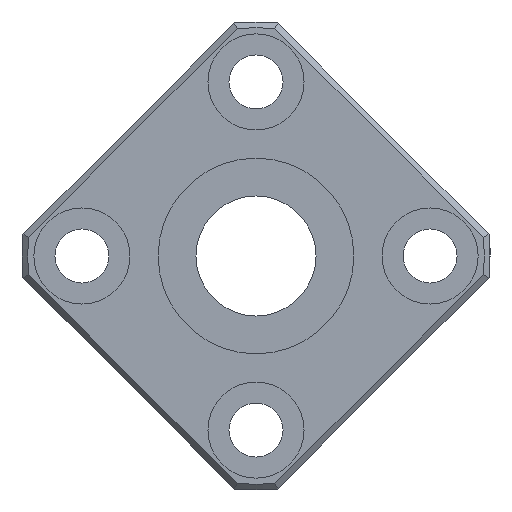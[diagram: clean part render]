
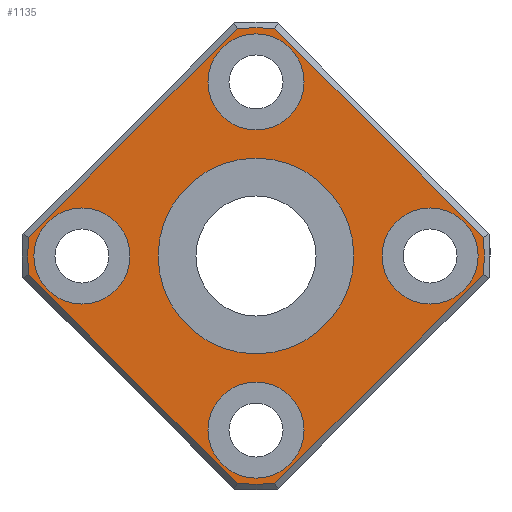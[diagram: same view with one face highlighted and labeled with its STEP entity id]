
A CAD part, left-side view. The second image highlights one B-rep face of the part: STEP entity #1135.
In plain terms, the highlighted planar face has unit normal (-1, 0, 0).
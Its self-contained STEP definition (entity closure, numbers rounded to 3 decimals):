
#711=CARTESIAN_POINT('',(0.0,1.571,-18.935));
#712=VERTEX_POINT('',#711);
#720=CARTESIAN_POINT('',(0.0,18.935,-1.571));
#721=VERTEX_POINT('',#720);
#722=CARTESIAN_POINT('',(0.0,1.571,-18.935));
#723=DIRECTION('',(0.0,0.707,0.707));
#724=VECTOR('',#723,24.556);
#725=LINE('',#722,#724);
#726=EDGE_CURVE('',#712,#721,#725,.T.);
#753=CARTESIAN_POINT('',(0.0,18.935,1.571));
#754=VERTEX_POINT('',#753);
#755=CARTESIAN_POINT('',(0.0,0.0,0.0));
#756=DIRECTION('',(1.0,0.0,0.0));
#757=DIRECTION('',(0.0,0.0,1.0));
#758=AXIS2_PLACEMENT_3D('',#755,#756,#757);
#759=CIRCLE('',#758,19.0);
#760=EDGE_CURVE('',#721,#754,#759,.T.);
#786=CARTESIAN_POINT('',(0.0,1.571,18.935));
#787=VERTEX_POINT('',#786);
#788=CARTESIAN_POINT('',(0.0,18.935,1.571));
#789=DIRECTION('',(0.0,-0.707,0.707));
#790=VECTOR('',#789,24.556);
#791=LINE('',#788,#790);
#792=EDGE_CURVE('',#754,#787,#791,.T.);
#819=CARTESIAN_POINT('',(0.0,-1.571,18.935));
#820=VERTEX_POINT('',#819);
#821=CARTESIAN_POINT('',(0.0,0.0,0.0));
#822=DIRECTION('',(1.0,0.0,0.0));
#823=DIRECTION('',(0.0,0.0,1.0));
#824=AXIS2_PLACEMENT_3D('',#821,#822,#823);
#825=CIRCLE('',#824,19.0);
#826=EDGE_CURVE('',#787,#820,#825,.T.);
#852=CARTESIAN_POINT('',(0.0,-18.935,1.571));
#853=VERTEX_POINT('',#852);
#854=CARTESIAN_POINT('',(0.0,-1.571,18.935));
#855=DIRECTION('',(0.0,-0.707,-0.707));
#856=VECTOR('',#855,24.556);
#857=LINE('',#854,#856);
#858=EDGE_CURVE('',#820,#853,#857,.T.);
#885=CARTESIAN_POINT('',(0.0,-18.935,-1.571));
#886=VERTEX_POINT('',#885);
#887=CARTESIAN_POINT('',(0.0,0.0,0.0));
#888=DIRECTION('',(1.0,0.0,0.0));
#889=DIRECTION('',(0.0,0.0,1.0));
#890=AXIS2_PLACEMENT_3D('',#887,#888,#889);
#891=CIRCLE('',#890,19.0);
#892=EDGE_CURVE('',#853,#886,#891,.T.);
#918=CARTESIAN_POINT('',(0.0,-1.571,-18.935));
#919=VERTEX_POINT('',#918);
#920=CARTESIAN_POINT('',(0.0,-18.935,-1.571));
#921=DIRECTION('',(0.0,0.707,-0.707));
#922=VECTOR('',#921,24.556);
#923=LINE('',#920,#922);
#924=EDGE_CURVE('',#886,#919,#923,.T.);
#949=CARTESIAN_POINT('',(0.0,0.0,0.0));
#950=DIRECTION('',(1.0,0.0,0.0));
#951=DIRECTION('',(0.0,0.0,-1.0));
#952=AXIS2_PLACEMENT_3D('',#949,#950,#951);
#953=CIRCLE('',#952,19.0);
#954=EDGE_CURVE('',#919,#712,#953,.T.);
#1065=CARTESIAN_POINT('',(0.0,0.0,8.825));
#1066=DIRECTION('',(-1.0,0.0,0.0));
#1067=DIRECTION('',(0.0,0.0,1.0));
#1068=AXIS2_PLACEMENT_3D('',#1065,#1066,#1067);
#1069=PLANE('',#1068);
#1070=ORIENTED_EDGE('',*,*,#726,.F.);
#1071=ORIENTED_EDGE('',*,*,#954,.F.);
#1072=ORIENTED_EDGE('',*,*,#924,.F.);
#1073=ORIENTED_EDGE('',*,*,#892,.F.);
#1074=ORIENTED_EDGE('',*,*,#858,.F.);
#1075=ORIENTED_EDGE('',*,*,#826,.F.);
#1076=ORIENTED_EDGE('',*,*,#792,.F.);
#1077=ORIENTED_EDGE('',*,*,#760,.F.);
#1078=EDGE_LOOP('',(#1070,#1071,#1072,#1073,#1074,#1075,#1076,#1077));
#1079=FACE_OUTER_BOUND('',#1078,.T.);
#1080=CARTESIAN_POINT('',(0.0,0.0,8.15));
#1081=VERTEX_POINT('',#1080);
#1082=CARTESIAN_POINT('',(0.0,0.0,0.0));
#1083=DIRECTION('',(-1.0,0.0,0.0));
#1084=DIRECTION('',(0.0,0.0,1.0));
#1085=AXIS2_PLACEMENT_3D('',#1082,#1083,#1084);
#1086=CIRCLE('',#1085,8.15);
#1087=EDGE_CURVE('',#1081,#1081,#1086,.T.);
#1088=ORIENTED_EDGE('',*,*,#1087,.F.);
#1089=EDGE_LOOP('',(#1088));
#1090=FACE_BOUND('',#1089,.T.);
#1091=CARTESIAN_POINT('',(0.0,-10.5,0.));
#1092=VERTEX_POINT('',#1091);
#1093=CARTESIAN_POINT('',(0.0,-14.5,0.));
#1094=DIRECTION('',(1.0,0.0,0.0));
#1095=DIRECTION('',(0.0,1.0,0.0));
#1096=AXIS2_PLACEMENT_3D('',#1093,#1094,#1095);
#1097=CIRCLE('',#1096,4.0);
#1098=EDGE_CURVE('',#1092,#1092,#1097,.T.);
#1099=ORIENTED_EDGE('',*,*,#1098,.T.);
#1100=EDGE_LOOP('',(#1099));
#1101=FACE_BOUND('',#1100,.T.);
#1102=CARTESIAN_POINT('',(0.0,18.5,0.));
#1103=VERTEX_POINT('',#1102);
#1104=CARTESIAN_POINT('',(0.0,14.5,0.));
#1105=DIRECTION('',(1.0,0.0,0.0));
#1106=DIRECTION('',(0.0,1.0,0.0));
#1107=AXIS2_PLACEMENT_3D('',#1104,#1105,#1106);
#1108=CIRCLE('',#1107,4.0);
#1109=EDGE_CURVE('',#1103,#1103,#1108,.T.);
#1110=ORIENTED_EDGE('',*,*,#1109,.T.);
#1111=EDGE_LOOP('',(#1110));
#1112=FACE_BOUND('',#1111,.T.);
#1113=CARTESIAN_POINT('',(0.0,4.,14.5));
#1114=VERTEX_POINT('',#1113);
#1115=CARTESIAN_POINT('',(0.0,0.,14.5));
#1116=DIRECTION('',(1.0,0.0,0.0));
#1117=DIRECTION('',(0.0,1.0,0.0));
#1118=AXIS2_PLACEMENT_3D('',#1115,#1116,#1117);
#1119=CIRCLE('',#1118,4.0);
#1120=EDGE_CURVE('',#1114,#1114,#1119,.T.);
#1121=ORIENTED_EDGE('',*,*,#1120,.T.);
#1122=EDGE_LOOP('',(#1121));
#1123=FACE_BOUND('',#1122,.T.);
#1124=CARTESIAN_POINT('',(0.0,4.,-14.5));
#1125=VERTEX_POINT('',#1124);
#1126=CARTESIAN_POINT('',(0.0,0.,-14.5));
#1127=DIRECTION('',(1.0,0.0,0.0));
#1128=DIRECTION('',(0.0,1.0,0.0));
#1129=AXIS2_PLACEMENT_3D('',#1126,#1127,#1128);
#1130=CIRCLE('',#1129,4.0);
#1131=EDGE_CURVE('',#1125,#1125,#1130,.T.);
#1132=ORIENTED_EDGE('',*,*,#1131,.T.);
#1133=EDGE_LOOP('',(#1132));
#1134=FACE_BOUND('',#1133,.T.);
#1135=ADVANCED_FACE('',(#1079,#1090,#1101,#1112,#1123,#1134),#1069,.T.);
